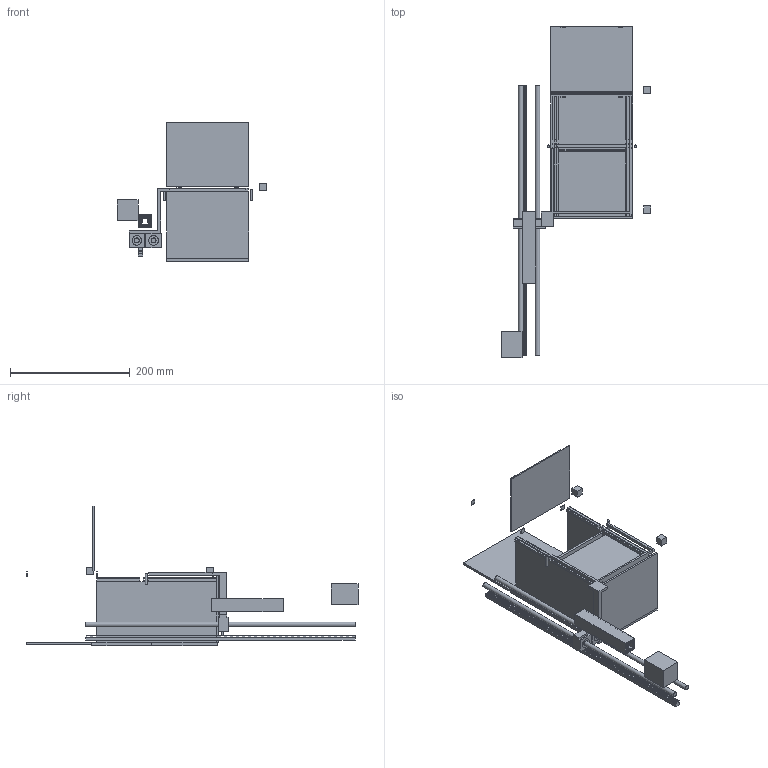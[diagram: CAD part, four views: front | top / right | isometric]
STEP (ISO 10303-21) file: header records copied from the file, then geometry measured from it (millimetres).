
FILE_DESCRIPTION(('FreeCAD Model'),'2;1');
FILE_NAME('Open CASCADE Shape Model','2026-10-19T11:27:31',('FreeCAD'),( 'FreeCAD'),'Open CASCADE STEP processor 7.8','FreeCAD','Unknown');
FILE_SCHEMA(('AUTOMOTIVE_DESIGN { 1 0 10303 214 1 1 1 1 }'));
Length unit declared in the file: millimetre
Products named in the file (1): Open CASCADE STEP translator 7.8 21
Bounding box: 250.5 x 555 x 234 mm (x, y, z)
Volume: 1931556.8 mm3; surface area: 502374.9 mm2
Topology: 29 solids, 29 shells, 1170 faces, 3333 edges, 2222 vertices
Faces by surface type: plane 1160, cylinder 10
Full cylindrical faces by diameter (mm): 4 x2, 8 x2, 8.5 x2, 16 x4
Entity records: 37259 total; most frequent: CARTESIAN_POINT 6726, ORIENTED_EDGE 6666, DIRECTION 5695, EDGE_CURVE 3333, LINE 3313, VECTOR 3313, VERTEX_POINT 2222, AXIS2_PLACEMENT_3D 1191
